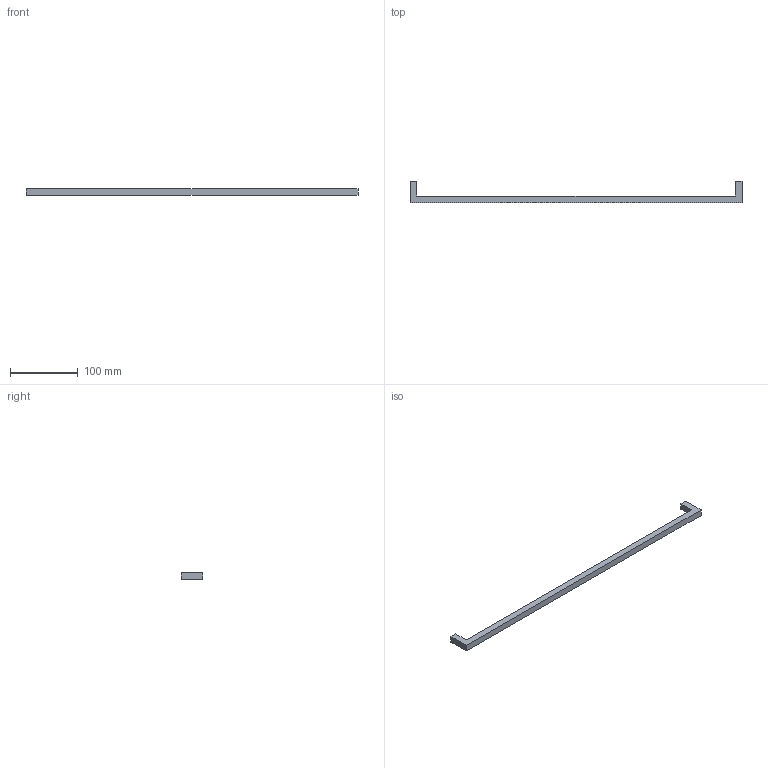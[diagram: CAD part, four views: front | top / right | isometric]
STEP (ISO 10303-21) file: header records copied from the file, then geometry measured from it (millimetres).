
FILE_DESCRIPTION( ( '' ), '1' );
FILE_NAME( 'C:/Documents and Settings/Sachin/Desktop/Sheet 10_1/stp/1160023.stp', '2013-10-22T06:49:04', ( '' ), ( '' ), ' ', ' ', ' ' );
FILE_SCHEMA( ( 'CONFIG_CONTROL_DESIGN' ) );
Length unit declared in the file: millimetre
Products named in the file (1): 1
Bounding box: 490 x 32 x 10 mm (x, y, z)
Volume: 53148.7 mm3; surface area: 21811.3 mm2
Topology: 1 solids, 1 shells, 16 faces, 36 edges, 24 vertices
Faces by surface type: plane 12, cylinder 4
Entity records: 492 total; most frequent: DIRECTION 78, CARTESIAN_POINT 77, ORIENTED_EDGE 72, EDGE_CURVE 36, LINE 28, VECTOR 28, AXIS2_PLACEMENT_3D 25, VERTEX_POINT 24
